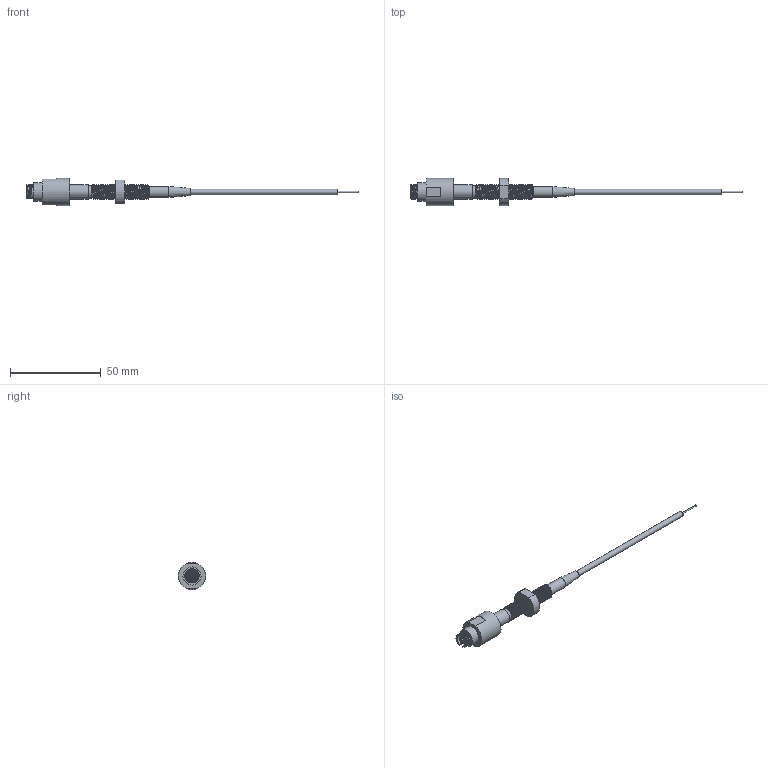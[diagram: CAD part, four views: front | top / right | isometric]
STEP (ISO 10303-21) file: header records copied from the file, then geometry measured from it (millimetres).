
FILE_DESCRIPTION (( 'STEP AP203' ), '1' );
FILE_NAME ('FFFC-PT.STEP', '2024-04-19T18:34:55', ( '' ), ( '' ), 'SwSTEP 2.0', 'SolidWorks 2023', '' );
FILE_SCHEMA (( 'CONFIG_CONTROL_DESIGN' ));
Length unit declared in the file: millimetre
Products named in the file (1): FFFC-PT
Bounding box: 182.79 x 15 x 15 mm (x, y, z)
Surface area: 6393.1 mm2 (no closed solid volume)
Topology: 0 solids, 11 shells, 128 faces, 341 edges, 226 vertices
Faces by surface type: cylinder 62, plane 35, bspline 12, cone 10, torus 9
Full cylindrical faces by diameter (mm): 0.9 x1, 2 x1, 2.7 x1, 3 x1, 3.3 x1, 4.4 x1, 6 x2, 6.1 x1, 6.8 x1, 7 x31, 7.1 x1, 7.4 x1, 8 x1, 10 x1, 12.8 x1, 15 x1
Entity records: 21074 total; most frequent: CARTESIAN_POINT 19013, ORIENTED_EDGE 387, DIRECTION 371, EDGE_CURVE 207, VERTEX_POINT 154, AXIS2_PLACEMENT_3D 154, EDGE_LOOP 136, FACE_OUTER_BOUND 120
